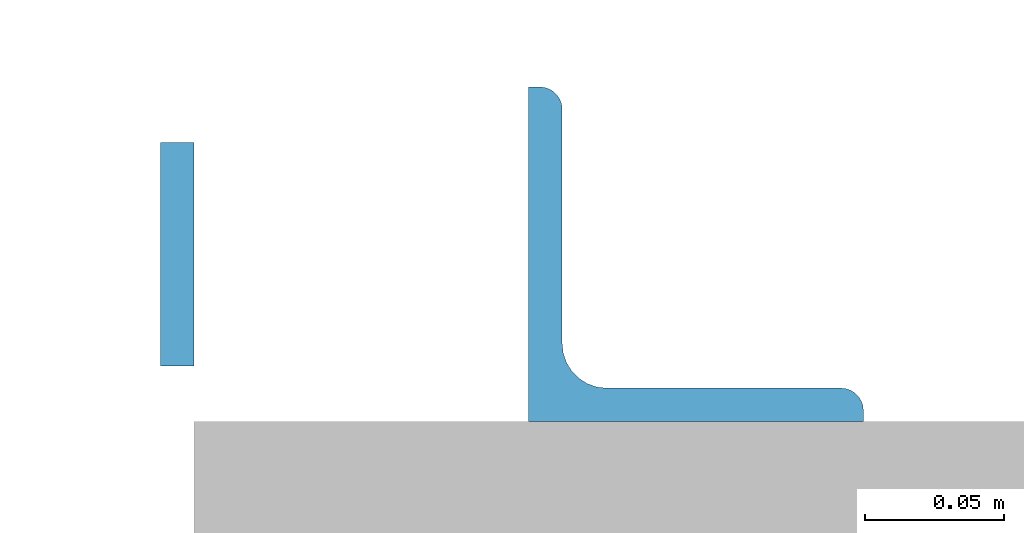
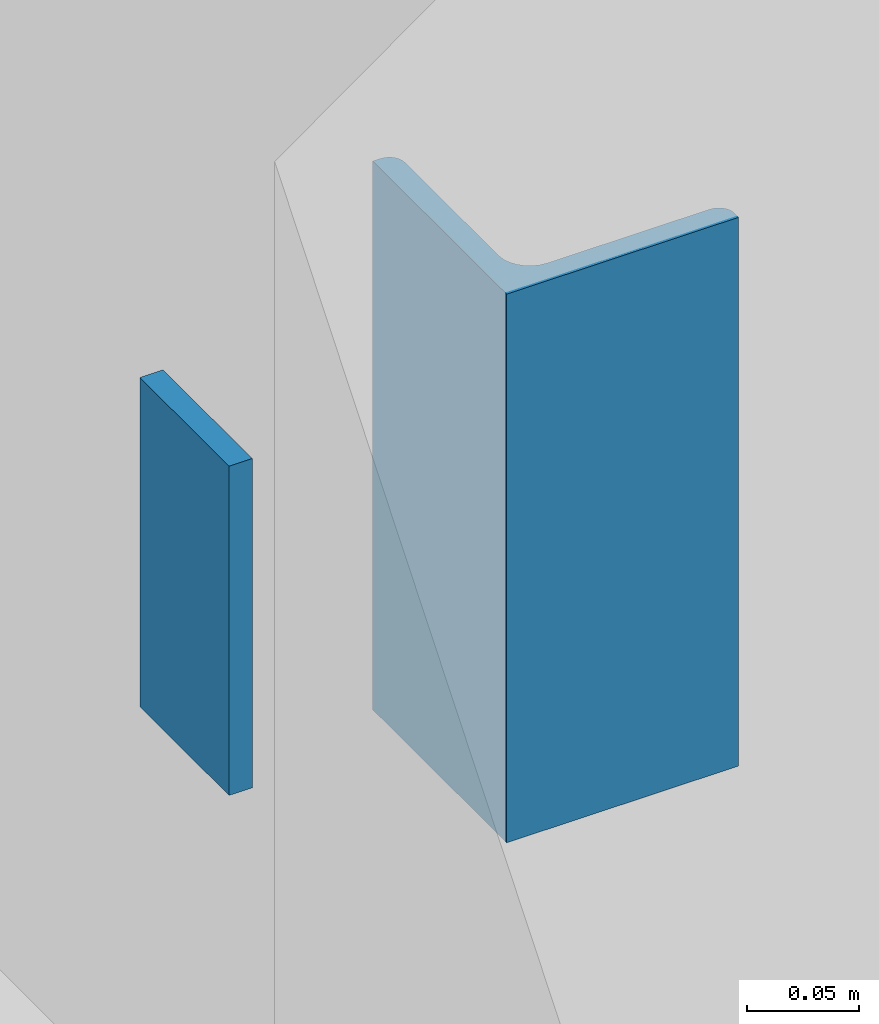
# One storey, part 5 of 22: 2 columns.
"""IFC2X3 building model written with IfcOpenShell, lengths in millimetres."""

from ifc_helpers import new_model, entity, si_unit, converted_unit, derived_unit, direction, frame, frame_2d, origin, origin_2d_with_axis, place, context, subcontext, project, spatial, polyline, circle_curve, parameter, trimmed, segment, composite_curve, rectangle, outline, extrude, source, transform, mapped, material, type_object, type_shapes, element, save


model = new_model("IFC2X3")

# Units and contexts
model_context = context("Model", 3, precision=0.01, world=origin(), true_north=direction((6.12303176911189e-17, 1.0)))
body_context = subcontext(model_context, "Body", "Model", "MODEL_VIEW")
ifc_project = project(units=[si_unit("LENGTHUNIT", "METRE", prefix="MILLI"), si_unit("AREAUNIT", "SQUARE_METRE"), si_unit("VOLUMEUNIT", "CUBIC_METRE"), converted_unit("PLANEANGLEUNIT", "DEGREE", entity("IfcRatioMeasure", 0.0174532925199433), si_unit("PLANEANGLEUNIT", "RADIAN"), dimensions=[0, 0, 0, 0, 0, 0, 0]), si_unit("MASSUNIT", "GRAM", prefix="KILO"), derived_unit("MASSDENSITYUNIT", [(si_unit("MASSUNIT", "GRAM", prefix="KILO"), 1), (si_unit("LENGTHUNIT", "METRE"), -3)]), si_unit("TIMEUNIT", "SECOND"), si_unit("FREQUENCYUNIT", "HERTZ"), si_unit("THERMODYNAMICTEMPERATUREUNIT", "DEGREE_CELSIUS"), derived_unit("THERMALTRANSMITTANCEUNIT", [(si_unit("MASSUNIT", "GRAM", prefix="KILO"), 1), (si_unit("THERMODYNAMICTEMPERATUREUNIT", "KELVIN"), -1), (si_unit("TIMEUNIT", "SECOND"), -3)]), derived_unit("VOLUMETRICFLOWRATEUNIT", [(si_unit("LENGTHUNIT", "METRE"), 3), (si_unit("TIMEUNIT", "SECOND"), -1)]), si_unit("ELECTRICCURRENTUNIT", "AMPERE"), si_unit("ELECTRICVOLTAGEUNIT", "VOLT"), si_unit("POWERUNIT", "WATT"), si_unit("FORCEUNIT", "NEWTON", prefix="KILO"), si_unit("ILLUMINANCEUNIT", "LUX"), si_unit("LUMINOUSFLUXUNIT", "LUMEN"), si_unit("LUMINOUSINTENSITYUNIT", "CANDELA"), derived_unit("USERDEFINED", [(si_unit("MASSUNIT", "GRAM", prefix="KILO"), -1), (si_unit("LENGTHUNIT", "METRE"), -2), (si_unit("TIMEUNIT", "SECOND"), 3), (si_unit("LUMINOUSFLUXUNIT", "LUMEN"), 1)]), derived_unit("LINEARVELOCITYUNIT", [(si_unit("LENGTHUNIT", "METRE"), 1), (si_unit("TIMEUNIT", "SECOND"), -1)]), si_unit("PRESSUREUNIT", "PASCAL"), derived_unit("USERDEFINED", [(si_unit("LENGTHUNIT", "METRE"), -2), (si_unit("MASSUNIT", "GRAM", prefix="KILO"), 1), (si_unit("TIMEUNIT", "SECOND"), -2)])], contexts=[model_context])

# Site, building, storey
site_placement = place(None, origin())
site = spatial("IfcSite", under=ifc_project, at=site_placement, Name="Default", CompositionType="ELEMENT")
building_placement = place(site_placement, origin())
building = spatial("IfcBuilding", under=site, at=building_placement, Name="niet gebruiken", CompositionType="ELEMENT")
storey_placement = place(building_placement, frame((0.0, 0.0, 15000.0)))
storey = spatial("IfcBuildingStorey", under=building, at=storey_placement, Name="04 vierde verdieping", CompositionType="ELEMENT", Elevation=15000.0)

# Columns
ifc_material = material(Name="NLRS_h2_staal")
column_type_1 = type_object("IfcColumnType", Name="kolomgelijzijdig hoekprofiel LEQU_120x120x12_!", PredefinedType="COLUMN", material=ifc_material)
shared_shape_1 = source(origin(), body_context, "Body", "SweptSolid", [
    extrude(outline(composite_curve([segment(polyline([(-74.6666666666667, -45.3333333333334), (45.3333333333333, -45.3333333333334)]), True, "CONTINUOUS"), segment(polyline([(45.3333333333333, -45.3333333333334), (45.3333333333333, 74.6666666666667)]), True, "CONTINUOUS"), segment(polyline([(45.3333333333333, 74.6666666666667), (41.3333333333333, 74.6666666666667)]), True, "CONTINUOUS"), segment(trimmed(circle_curve(frame_2d((41.3333333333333, 66.6666666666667), x_axis=(0.0, 1.0)), 8.0), [parameter(0.0)], [parameter(90.0)], True, "PARAMETER"), True, "CONTINUOUS"), segment(polyline([(33.3333333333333, 66.6666666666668), (33.3333333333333, -17.3333333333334)]), True, "CONTINUOUS"), segment(trimmed(circle_curve(frame_2d((17.3333333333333, -17.3333333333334), x_axis=(1.0, 0.0)), 16.0), [parameter(270.0)], [parameter(0.0)], True, "PARAMETER"), False, "CONTINUOUS"), segment(polyline([(17.3333333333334, -33.3333333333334), (-66.6666666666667, -33.3333333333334)]), True, "CONTINUOUS"), segment(trimmed(circle_curve(frame_2d((-66.6666666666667, -41.3333333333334), x_axis=(0.0, 1.0)), 7.99999999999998), [parameter(0.0)], [parameter(90.0000000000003)], True, "PARAMETER"), True, "CONTINUOUS"), segment(polyline([(-74.6666666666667, -41.3333333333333), (-74.6666666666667, -45.3333333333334)]), True, "CONTINUOUS")], self_intersect=False)), frame((32.8333333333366, 32.8333333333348, 16235.0), z_axis=(0.0, 0.0, 1.0), x_axis=(0.0, -1.0, 0.0)), (0.0, 0.0, 1.0), 300.00000000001),
])
type_shapes(column_type_1, [shared_shape_1])
column_1_placement = place(storey_placement, frame((124832.499999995, 10562.500000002, -15000.0)))
element("IfcColumn", 1, at=column_1_placement, inside=storey, type_object=column_type_1, material=ifc_material, Name="NLRS_28.11_SCO_TLB_stalen kolom hoekprofiel gelijkzijdig_gen:kolomgelijzijdig hoekprofiel LEQU_120x120x12_!", ObjectType="kolomgelijzijdig hoekprofiel LEQU_120x120x12_!", context=body_context, shape_type="MappedRepresentation", body=[
    mapped(shared_shape_1, transform((0.0, 0.0, 0.0), scale=1.0)),
])
column_type_2 = type_object("IfcColumnType", Name="kolom stripstaal RECT_80x12", PredefinedType="COLUMN", material=ifc_material)
shared_shape_2 = source(origin(), body_context, "Body", "SweptSolid", [
    extrude(rectangle(XDim=79.9999999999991, YDim=11.9999999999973, at=origin_2d_with_axis()), frame((124694.0, 10610.0, 16295.0), z_axis=(0.0, 0.0, 1.0), x_axis=(0.0, -1.0, 0.0)), (0.0, 0.0, 1.0), 180.000000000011),
])
type_shapes(column_type_2, [shared_shape_2])
column_2_placement = place(storey_placement, frame((0.0, 0.0, -15000.0)))
element("IfcColumn", 2, at=column_2_placement, inside=storey, type_object=column_type_2, material=ifc_material, Name="NLRS_28.11_SCO_TLB_stalen kolom stripstaal_gen:kolom stripstaal RECT_80x12", ObjectType="kolom stripstaal RECT_80x12", context=body_context, shape_type="MappedRepresentation", body=[
    mapped(shared_shape_2, transform((0.0, 0.0, 0.0), scale=1.0)),
])

save(model, "model.ifc")
